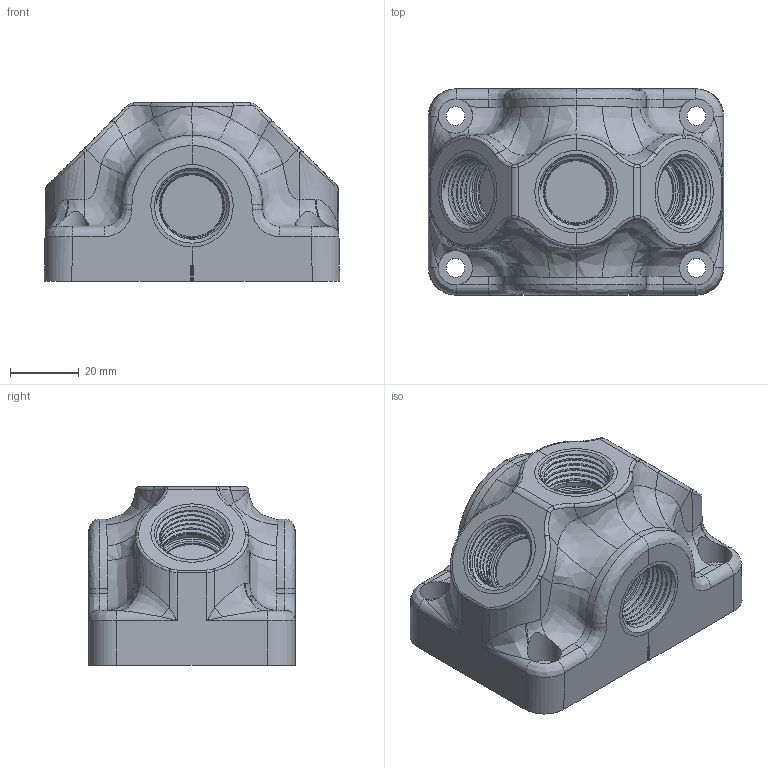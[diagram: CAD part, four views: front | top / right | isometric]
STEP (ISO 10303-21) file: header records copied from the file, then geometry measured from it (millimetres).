
FILE_DESCRIPTION((''),'2;1');
FILE_NAME('VD3_einhalb_03','2010-02-12T10:43:33',('CAD-1'),(''),'CADlook_v12.0','Cimatron E 9.0','');
FILE_SCHEMA(('AUTOMOTIVE_DESIGN { 1 2 10303 214 0 1 1 1 }'));
Length unit declared in the file: millimetre
Bounding box: 86.05 x 60.35 x 52 mm (x, y, z)
Volume: 164397.9 mm3; surface area: 36521.2 mm2
Topology: 5 solids, 5 shells, 268 faces, 674 edges, 418 vertices
Faces by surface type: bspline 100, cylinder 64, plane 52, cone 36, torus 16
Full cylindrical faces by diameter (mm): 5.5 x4, 10 x4, 18.06 x4, 24 x8
Entity records: 36886 total; most frequent: CARTESIAN_POINT 29126, ORIENTED_EDGE 1260, DIRECTION 928, EDGE_CURVE 630, VERTEX_POINT 418, AXIS2_PLACEMENT_3D 385, EDGE_LOOP 330, COLOUR_RGB 273
